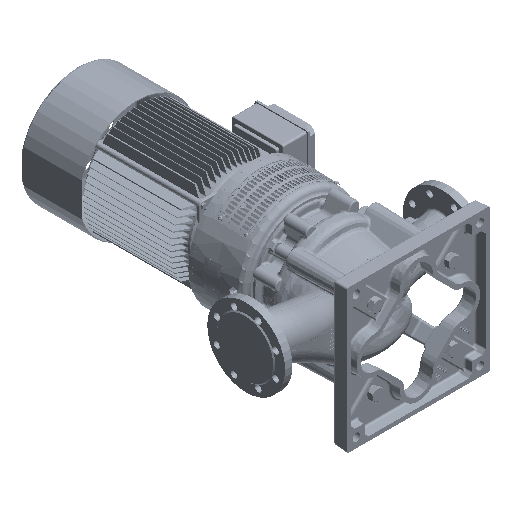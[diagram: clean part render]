
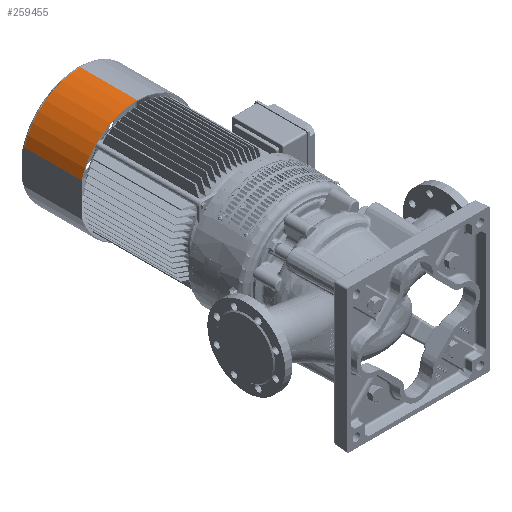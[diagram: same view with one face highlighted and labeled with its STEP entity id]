
A CAD part, isometric view. The second image highlights one B-rep face of the part: STEP entity #259455.
In plain terms, the highlighted cylindrical face has radius 165 mm (diameter 330 mm), a partial arc.
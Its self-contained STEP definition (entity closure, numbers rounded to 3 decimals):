
#256376=DIRECTION('',(0.,1.,0.));
#256377=VECTOR('',#256376,162.073);
#256378=CARTESIAN_POINT('',(-157.914,330.,47.834));
#256379=LINE('',#256378,#256377);
#256380=CARTESIAN_POINT('',(0.,492.073,
0.));
#256381=DIRECTION('',(0.,1.,0.));
#256382=DIRECTION('',(-0.957,0.,0.29));
#256383=AXIS2_PLACEMENT_3D('',#256380,#256381,#256382);
#256385=DIRECTION('',(0.,-1.,0.));
#256386=VECTOR('',#256385,162.073);
#256387=CARTESIAN_POINT('',(0.,492.073,165.));
#256388=LINE('',#256387,#256386);
#256399=CARTESIAN_POINT('',(0.,330.,0.));
#256400=DIRECTION('',(0.,1.,0.));
#256401=DIRECTION('',(-0.957,0.,0.29));
#256402=AXIS2_PLACEMENT_3D('',#256399,#256400,#256401);
#257964=CARTESIAN_POINT('',(0.,492.073,165.));
#257965=CARTESIAN_POINT('',(0.,330.,165.));
#257966=VERTEX_POINT('',#257964);
#257967=VERTEX_POINT('',#257965);
#257985=CARTESIAN_POINT('',(-157.914,330.,47.834));
#257987=VERTEX_POINT('',#257985);
#258595=CARTESIAN_POINT('',(-157.914,492.073,
47.834));
#258596=VERTEX_POINT('',#258595);
#259442=CARTESIAN_POINT('',(0.,326.759,0.));
#259443=DIRECTION('',(0.,1.,0.));
#259444=DIRECTION('',(0.,0.,1.));
#259445=AXIS2_PLACEMENT_3D('',#259442,#259443,#259444);
#259446=CYLINDRICAL_SURFACE('',#259445,165.);
#259448=ORIENTED_EDGE('',*,*,#259447,.F.);
#259449=ORIENTED_EDGE('',*,*,#259434,.T.);
#259450=ORIENTED_EDGE('',*,*,#259006,.T.);
#259452=ORIENTED_EDGE('',*,*,#259451,.T.);
#259453=EDGE_LOOP('',(#259448,#259449,#259450,#259452));
#259454=FACE_OUTER_BOUND('',#259453,.F.);
#259455=ADVANCED_FACE('',(#259454),#259446,.T.);
#256384=CIRCLE('',#256383,165.);
#256403=CIRCLE('',#256402,165.);
#259006=EDGE_CURVE('',#258596,#257966,#256384,.T.);
#259434=EDGE_CURVE('',#257987,#258596,#256379,.T.);
#259447=EDGE_CURVE('',#257987,#257967,#256403,.T.);
#259451=EDGE_CURVE('',#257966,#257967,#256388,.T.);
